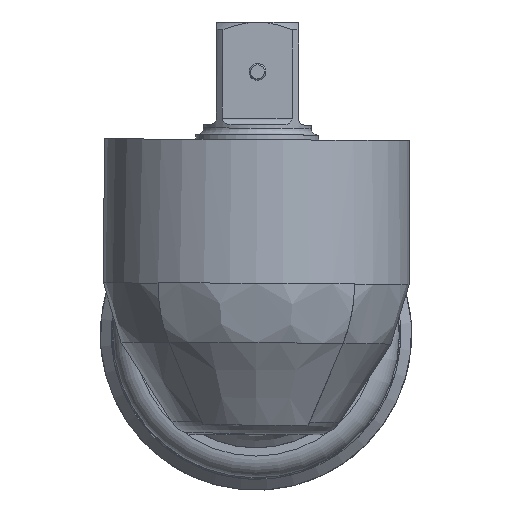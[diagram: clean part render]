
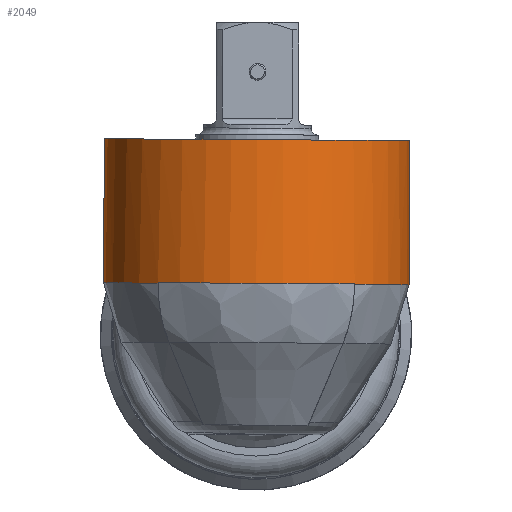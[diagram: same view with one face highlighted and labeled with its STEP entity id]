
A CAD part, left-side view. The second image highlights one B-rep face of the part: STEP entity #2049.
In plain terms, the highlighted cylindrical face has radius 35.56 mm (diameter 71.12 mm), a partial arc.
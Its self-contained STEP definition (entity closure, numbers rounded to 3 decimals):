
#176=LINE('',#13181,#377);
#177=LINE('',#13183,#378);
#236=LINE('',#14040,#437);
#244=LINE('',#14079,#445);
#249=LINE('',#14132,#450);
#252=LINE('',#14139,#453);
#377=VECTOR('',#8991,1.);
#378=VECTOR('',#8994,1.);
#437=VECTOR('',#9299,1.);
#445=VECTOR('',#9335,1.);
#450=VECTOR('',#9360,1.);
#453=VECTOR('',#9367,1.);
#1562=FACE_OUTER_BOUND('',#3006,.T.);
#2049=ADVANCED_FACE('',(#1562),#2450,.T.);
#2450=CYLINDRICAL_SURFACE('',#8127,35.56);
#3006=EDGE_LOOP('',(#4040,#4041,#4042,#4043,#4044,#4045,#4046,#4047,#4048,
#4049,#4050,#4051));
#4040=ORIENTED_EDGE('',*,*,#6690,.T.);
#4041=ORIENTED_EDGE('',*,*,#6703,.F.);
#4042=ORIENTED_EDGE('',*,*,#6694,.T.);
#4043=ORIENTED_EDGE('',*,*,#6587,.T.);
#4044=ORIENTED_EDGE('',*,*,#6677,.T.);
#4045=ORIENTED_EDGE('',*,*,#6704,.T.);
#4046=ORIENTED_EDGE('',*,*,#6494,.F.);
#4047=ORIENTED_EDGE('',*,*,#6483,.T.);
#4048=ORIENTED_EDGE('',*,*,#6493,.T.);
#4049=ORIENTED_EDGE('',*,*,#6686,.T.);
#4050=ORIENTED_EDGE('',*,*,#6662,.T.);
#4051=ORIENTED_EDGE('',*,*,#6644,.T.);
#5707=VERTEX_POINT('',#13146);
#5708=VERTEX_POINT('',#13147);
#5715=VERTEX_POINT('',#13180);
#5716=VERTEX_POINT('',#13184);
#5794=VERTEX_POINT('',#13650);
#5799=VERTEX_POINT('',#13689);
#5832=VERTEX_POINT('',#13981);
#5836=VERTEX_POINT('',#13997);
#5842=VERTEX_POINT('',#14041);
#5846=VERTEX_POINT('',#14078);
#5853=VERTEX_POINT('',#14130);
#5856=VERTEX_POINT('',#14137);
#6483=EDGE_CURVE('',#5707,#5708,#7502,.T.);
#6493=EDGE_CURVE('',#5708,#5715,#176,.T.);
#6494=EDGE_CURVE('',#5707,#5716,#177,.T.);
#6587=EDGE_CURVE('',#5799,#5794,#7539,.T.);
#6644=EDGE_CURVE('',#5832,#5836,#7562,.T.);
#6662=EDGE_CURVE('',#5842,#5832,#236,.T.);
#6677=EDGE_CURVE('',#5794,#5846,#244,.T.);
#6686=EDGE_CURVE('',#5715,#5842,#7577,.T.);
#6690=EDGE_CURVE('',#5836,#5853,#249,.T.);
#6694=EDGE_CURVE('',#5856,#5799,#252,.T.);
#6703=EDGE_CURVE('',#5856,#5853,#7582,.T.);
#6704=EDGE_CURVE('',#5846,#5716,#7583,.T.);
#7502=CIRCLE('',#7960,35.56);
#7539=CIRCLE('',#8034,35.56);
#7562=CIRCLE('',#8075,35.56);
#7577=CIRCLE('',#8112,35.56);
#7582=CIRCLE('',#8125,35.56);
#7583=CIRCLE('',#8126,35.56);
#7960=AXIS2_PLACEMENT_3D('',#13145,#8972,#8973);
#8034=AXIS2_PLACEMENT_3D('',#13688,#9155,#9156);
#8075=AXIS2_PLACEMENT_3D('',#13999,#9255,#9256);
#8112=AXIS2_PLACEMENT_3D('',#14099,#9352,#9353);
#8125=AXIS2_PLACEMENT_3D('',#14157,#9389,#9390);
#8126=AXIS2_PLACEMENT_3D('',#14158,#9391,#9392);
#8127=AXIS2_PLACEMENT_3D('',#14159,#9393,#9394);
#8972=DIRECTION('',(0.,-0.006,1.));
#8973=DIRECTION('',(-1.,0.,0.));
#8991=DIRECTION('',(0.,0.006,-1.));
#8994=DIRECTION('',(0.,0.006,-1.));
#9155=DIRECTION('',(0.,0.006,-1.));
#9156=DIRECTION('',(0.,1.,0.006));
#9255=DIRECTION('',(0.,0.006,-1.));
#9256=DIRECTION('',(0.,1.,0.006));
#9299=DIRECTION('',(0.,-0.006,1.));
#9335=DIRECTION('',(0.,0.006,-1.));
#9352=DIRECTION('',(0.,-0.006,1.));
#9353=DIRECTION('',(0.,1.,0.006));
#9360=DIRECTION('',(0.,-0.006,1.));
#9367=DIRECTION('',(0.,0.006,-1.));
#9389=DIRECTION('',(0.,-0.006,1.));
#9390=DIRECTION('',(-1.,0.,0.));
#9391=DIRECTION('',(0.,-0.006,1.));
#9392=DIRECTION('',(0.,1.,0.006));
#9393=DIRECTION('',(0.,-0.006,1.));
#9394=DIRECTION('',(0.,1.,0.006));
#13145=CARTESIAN_POINT('',(-276.518,-0.072,11.938));
#13146=CARTESIAN_POINT('',(-303.758,22.785,12.075));
#13147=CARTESIAN_POINT('',(-303.758,-22.929,11.801));
#13180=CARTESIAN_POINT('',(-303.758,-22.928,11.691));
#13181=CARTESIAN_POINT('',(-303.758,-23.136,46.344));
#13183=CARTESIAN_POINT('',(-303.758,22.578,46.618));
#13184=CARTESIAN_POINT('',(-303.758,22.786,11.965));
#13650=CARTESIAN_POINT('',(-249.604,23.141,16.649));
#13688=CARTESIAN_POINT('',(-276.518,-0.099,16.51));
#13689=CARTESIAN_POINT('',(-260.332,31.563,16.7));
#13981=CARTESIAN_POINT('',(-249.604,-23.34,16.37));
#13997=CARTESIAN_POINT('',(-260.332,-31.762,16.32));
#13999=CARTESIAN_POINT('',(-276.518,-0.099,16.51));
#14040=CARTESIAN_POINT('',(-249.604,-23.52,46.342));
#14041=CARTESIAN_POINT('',(-249.604,-23.312,11.689));
#14078=CARTESIAN_POINT('',(-249.604,23.17,11.968));
#14079=CARTESIAN_POINT('',(-249.604,22.961,46.621));
#14099=CARTESIAN_POINT('',(-276.518,-0.071,11.828));
#14130=CARTESIAN_POINT('',(-260.332,-31.935,45.148));
#14132=CARTESIAN_POINT('',(-260.332,-31.942,46.291));
#14137=CARTESIAN_POINT('',(-260.332,31.39,45.528));
#14139=CARTESIAN_POINT('',(-260.332,31.383,46.671));
#14157=CARTESIAN_POINT('',(-276.518,-0.272,45.338));
#14158=CARTESIAN_POINT('',(-276.518,-0.071,11.828));
#14159=CARTESIAN_POINT('',(-276.518,-0.279,46.481));
